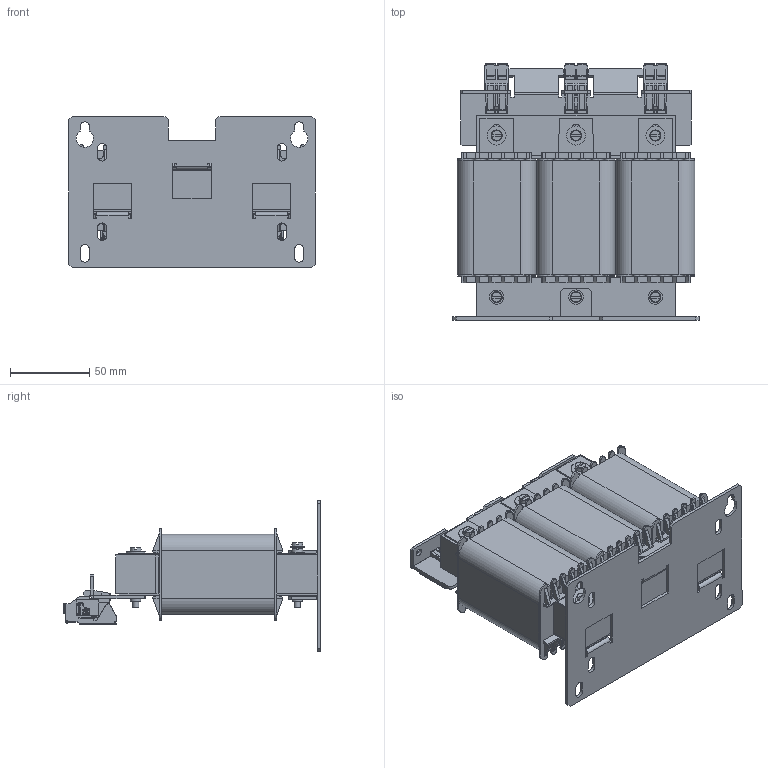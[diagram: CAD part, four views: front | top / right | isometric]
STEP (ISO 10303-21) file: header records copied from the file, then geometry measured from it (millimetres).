
FILE_DESCRIPTION (( 'STEP AP214' ), '1' );
FILE_NAME ('PCT-020.STEP', '2015-04-28T09:58:03', ( 'EDV' ), ( 'Microsoft' ), 'SwSTEP 2.0', 'SolidWorks 2014', '' );
FILE_SCHEMA (( 'AUTOMOTIVE_DESIGN' ));
Length unit declared in the file: millimetre
Products named in the file (12): Wickel 3UI 75_26,5; UI75-26,5oD; Kern LR3 40-4_20; #040-0874_#040-1673; #144-0147; #080-0553_neu 220508; PCT-020; BTK 4_2 +2202-0006; Plain Washer Grade A_DIN_Washer DIN 125 - A 4.3; Plain Washer Large_DIN_Washer DIN 9021 - 4.3; Slotted Cheese Head Screw_DIN_ISO 1207 - M4 x 16 --- 16N; Slotted Cheese Head Screw_DIN_ISO 1207 - M4 x 35 --- 35N
Assembly tree (26 placements, depth 2):
  PCT-020
    #080-0553_neu 220508
    #144-0147  x2
    #040-0874_#040-1673
    Kern LR3 40-4_20
    UI75-26,5oD  x3
    Wickel 3UI 75_26,5  x3
    Slotted Cheese Head Screw_DIN_ISO 1207 - M4 x 35 --- 35N  x5
    Slotted Cheese Head Screw_DIN_ISO 1207 - M4 x 16 --- 16N
    Plain Washer Large_DIN_Washer DIN 9021 - 4.3  x3
    Plain Washer Grade A_DIN_Washer DIN 125 - A 4.3  x3
    BTK 4_2 +2202-0006  x3
Bounding box: 155 x 161.6 x 95 mm (x, y, z)
Volume: 761513.4 mm3; surface area: 316815.7 mm2
Topology: 28 solids, 28 shells, 6617 faces, 18331 edges, 11906 vertices
Faces by surface type: plane 5220, cylinder 958, bspline 346, torus 87, cone 6
Full cylindrical faces by diameter (mm): 2.82 x1, 3.7 x6, 4 x6, 4.3 x6, 4.6 x2, 5.4 x6, 6 x6, 6.5 x6, 6.95 x1, 7.15 x1, 9 x3, 12 x3
Entity records: 95591 total; most frequent: CARTESIAN_POINT 25172, ORIENTED_EDGE 14720, DIRECTION 12599, EDGE_CURVE 7360, VECTOR 6159, LINE 6159, VERTEX_POINT 4806, AXIS2_PLACEMENT_3D 3220
